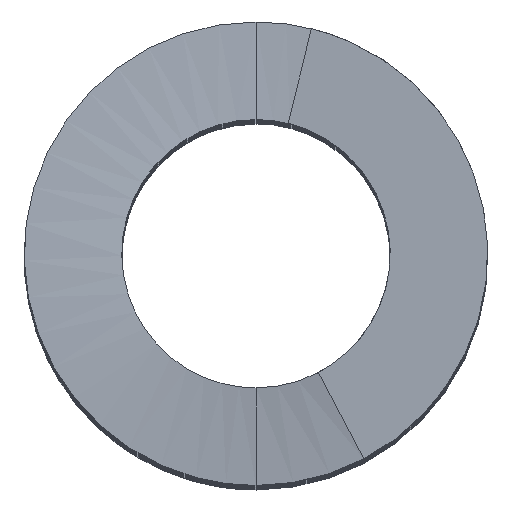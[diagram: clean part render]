
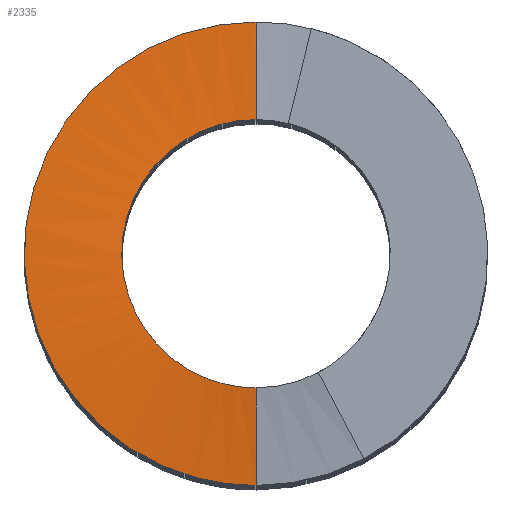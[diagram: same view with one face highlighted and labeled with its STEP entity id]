
A CAD part, top view. The second image highlights one B-rep face of the part: STEP entity #2335.
In plain terms, the highlighted free-form (B-spline) face has degree [5, 1] with [9, 2] control points.
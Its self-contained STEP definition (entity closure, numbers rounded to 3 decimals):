
#2244=CARTESIAN_POINT('Control Point',(0.,2.75,52.5)) ;
#2245=CARTESIAN_POINT('Control Point',(0.,4.75,52.5)) ;
#2246=CARTESIAN_POINT('Vertex',(0.,4.75,52.5)) ;
#2248=CARTESIAN_POINT('Vertex',(0.,2.75,52.5)) ;
#2281=CARTESIAN_POINT('Control Point',(0.,2.75,52.5)) ;
#2282=CARTESIAN_POINT('Control Point',(0.,4.75,52.5)) ;
#2283=CARTESIAN_POINT('Control Point',(-0.865,2.75,52.63)) ;
#2284=CARTESIAN_POINT('Control Point',(-1.494,4.75,52.63)) ;
#2285=CARTESIAN_POINT('Control Point',(-1.73,2.41,52.76)) ;
#2286=CARTESIAN_POINT('Control Point',(-2.988,4.162,52.76)) ;
#2287=CARTESIAN_POINT('Control Point',(-2.41,1.73,52.89)) ;
#2288=CARTESIAN_POINT('Control Point',(-4.162,2.988,52.89)) ;
#2289=CARTESIAN_POINT('Control Point',(-3.09,0.,53.15)) ;
#2290=CARTESIAN_POINT('Control Point',(-5.338,0.,53.15)) ;
#2291=CARTESIAN_POINT('Control Point',(-2.41,-1.73,53.41)) ;
#2292=CARTESIAN_POINT('Control Point',(-4.162,-2.988,53.41)) ;
#2293=CARTESIAN_POINT('Control Point',(-1.73,-2.41,53.54)) ;
#2294=CARTESIAN_POINT('Control Point',(-2.988,-4.162,53.54)) ;
#2295=CARTESIAN_POINT('Control Point',(-0.865,-2.75,53.67)) ;
#2296=CARTESIAN_POINT('Control Point',(-1.494,-4.75,53.67)) ;
#2297=CARTESIAN_POINT('Control Point',(0.,-2.75,53.8)) ;
#2298=CARTESIAN_POINT('Control Point',(0.,-4.75,53.8)) ;
#2300=CARTESIAN_POINT('Control Point',(0.,-2.75,53.8)) ;
#2301=CARTESIAN_POINT('Control Point',(0.,-4.75,53.8)) ;
#2302=CARTESIAN_POINT('Vertex',(0.,-4.75,53.8)) ;
#2304=CARTESIAN_POINT('Vertex',(0.,-2.75,53.8)) ;
#2308=CARTESIAN_POINT('Control Point',(0.,2.75,52.5)) ;
#2309=CARTESIAN_POINT('Control Point',(-0.865,2.75,52.63)) ;
#2310=CARTESIAN_POINT('Control Point',(-1.73,2.41,52.76)) ;
#2311=CARTESIAN_POINT('Control Point',(-2.41,1.73,52.89)) ;
#2312=CARTESIAN_POINT('Control Point',(-3.09,0.,53.15)) ;
#2313=CARTESIAN_POINT('Control Point',(-2.41,-1.73,53.41)) ;
#2314=CARTESIAN_POINT('Control Point',(-1.73,-2.41,53.54)) ;
#2315=CARTESIAN_POINT('Control Point',(-0.865,-2.75,53.67)) ;
#2316=CARTESIAN_POINT('Control Point',(0.,-2.75,53.8)) ;
#2319=CARTESIAN_POINT('Control Point',(0.,4.75,52.5)) ;
#2320=CARTESIAN_POINT('Control Point',(-1.494,4.75,52.63)) ;
#2321=CARTESIAN_POINT('Control Point',(-2.988,4.162,52.76)) ;
#2322=CARTESIAN_POINT('Control Point',(-4.162,2.988,52.89)) ;
#2323=CARTESIAN_POINT('Control Point',(-5.338,0.,53.15)) ;
#2324=CARTESIAN_POINT('Control Point',(-4.162,-2.988,53.41)) ;
#2325=CARTESIAN_POINT('Control Point',(-2.988,-4.162,53.54)) ;
#2326=CARTESIAN_POINT('Control Point',(-1.494,-4.75,53.67)) ;
#2327=CARTESIAN_POINT('Control Point',(0.,-4.75,53.8)) ;
#2330=ORIENTED_EDGE('',*,*,#2306,.T.) ;
#2331=ORIENTED_EDGE('',*,*,#2317,.F.) ;
#2332=ORIENTED_EDGE('',*,*,#2250,.F.) ;
#2333=ORIENTED_EDGE('',*,*,#2328,.T.) ;
#2335=ADVANCED_FACE('PartBody',(#2334),#2280,.F.) ;
#2243=B_SPLINE_CURVE_WITH_KNOTS('',1,(#2244,#2245),.UNSPECIFIED.,.F.,.U.,(2,2),(2.75,4.75),.UNSPECIFIED.) ;
#2299=B_SPLINE_CURVE_WITH_KNOTS('',1,(#2300,#2301),.UNSPECIFIED.,.F.,.U.,(2,2),(2.75,4.75),.UNSPECIFIED.) ;
#2307=B_SPLINE_CURVE_WITH_KNOTS('',5,(#2308,#2309,#2310,#2311,#2312,#2313,#2314,#2315,#2316),.UNSPECIFIED.,.F.,.U.,(6,3,6),(0.,6.139,12.278),.UNSPECIFIED.) ;
#2318=B_SPLINE_CURVE_WITH_KNOTS('',5,(#2319,#2320,#2321,#2322,#2323,#2324,#2325,#2326,#2327),.UNSPECIFIED.,.F.,.U.,(6,3,6),(0.,6.139,12.278),.UNSPECIFIED.) ;
#2280=B_SPLINE_SURFACE_WITH_KNOTS('',5,1,((#2281,#2282),(#2283,#2284),(#2285,#2286),(#2287,#2288),(#2289,#2290),(#2291,#2292),(#2293,#2294),(#2295,#2296),(#2297,#2298)),.UNSPECIFIED.,.F.,.F.,.U.,(6,3,6),(2,2),(0.,6.139,12.278),(2.75,4.75),.UNSPECIFIED.) ;
#2250=EDGE_CURVE('',#2247,#2249,#2243,.F.) ;
#2306=EDGE_CURVE('',#2303,#2305,#2299,.F.) ;
#2317=EDGE_CURVE('',#2249,#2305,#2307,.T.) ;
#2328=EDGE_CURVE('',#2247,#2303,#2318,.T.) ;
#2329=EDGE_LOOP('',(#2330,#2331,#2332,#2333)) ;
#2334=FACE_OUTER_BOUND('',#2329,.T.) ;
#2247=VERTEX_POINT('',#2246) ;
#2249=VERTEX_POINT('',#2248) ;
#2303=VERTEX_POINT('',#2302) ;
#2305=VERTEX_POINT('',#2304) ;
